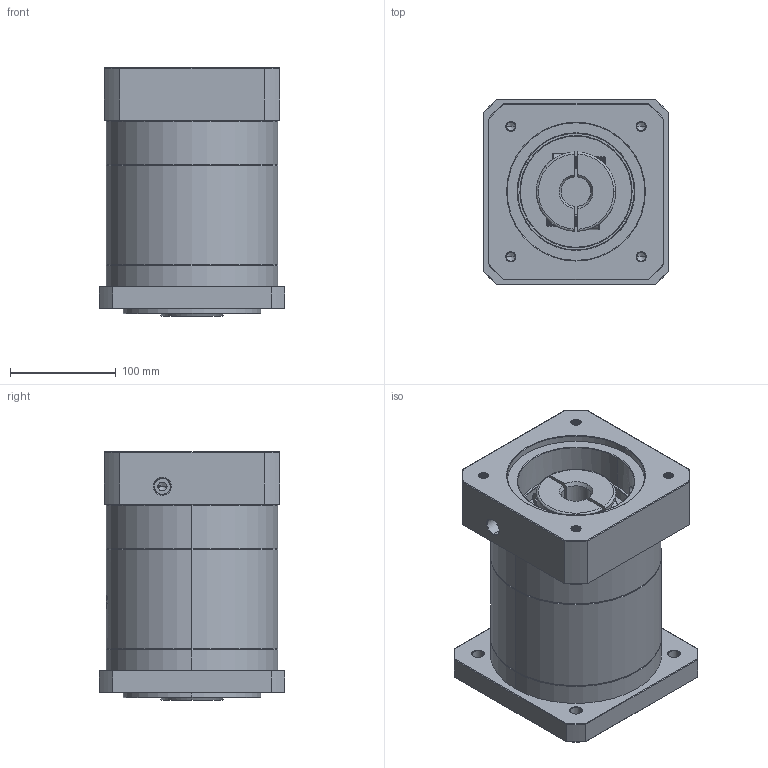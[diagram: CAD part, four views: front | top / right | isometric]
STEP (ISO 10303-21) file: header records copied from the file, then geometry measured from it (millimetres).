
FILE_DESCRIPTION (( 'STEP AP214' ), '1' );
FILE_NAME ('ZF160A-K35-L2-P2-28-130-174-M10.step', '2023-09-03T07:02:41', ( '' ), ( '' ), 'SwSTEP 2.0', 'SolidWorks 2016', '' );
FILE_SCHEMA (( 'AUTOMOTIVE_DESIGN' ));
Length unit declared in the file: millimetre
Products named in the file (1): ZF160A-K35-L2-P2-28-130-174-M10
Bounding box: 175 x 175 x 234.2 mm (x, y, z)
Volume: 4742027.3 mm3; surface area: 343132.4 mm2
Topology: 6 solids, 6 shells, 2146 faces, 5809 edges, 3767 vertices
Faces by surface type: plane 1010, bspline 404, cylinder 392, cone 320, torus 20
Entity records: 118952 total; most frequent: CARTESIAN_POINT 46302, ORIENTED_EDGE 11562, DIRECTION 8453, EDGE_CURVE 5781, VERTEX_POINT 3767, LINE 3013, VECTOR 3013, AXIS2_PLACEMENT_3D 2720
